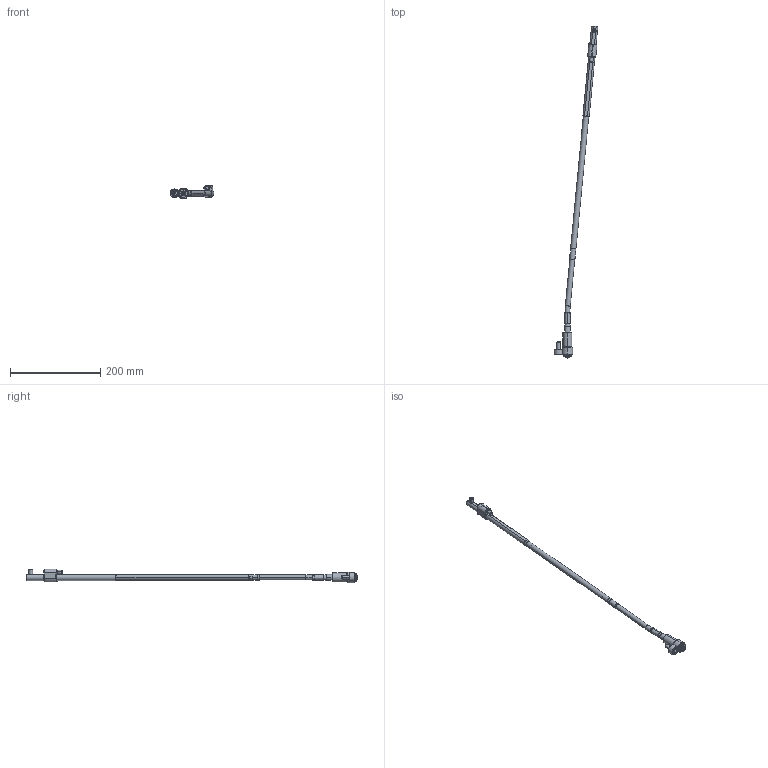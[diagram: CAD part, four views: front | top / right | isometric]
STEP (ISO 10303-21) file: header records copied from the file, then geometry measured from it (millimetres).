
FILE_DESCRIPTION (( 'STEP AP214' ), '1' );
FILE_NAME ('WL120100-EJE 5,5°.STEP', '2021-03-19T15:34:20', ( '' ), ( '' ), 'SwSTEP 2.0', 'SolidWorks 2019', '' );
FILE_SCHEMA (( 'AUTOMOTIVE_DESIGN' ));
Length unit declared in the file: millimetre
Products named in the file (17): Web-WL12-F01; Web-WL12-A2; 9DR2808-TOR; WL120100-B; 8WL12EJEP; 1DIN912820_DIN 912 M8 x 20 --- 20C; WL120100-EJE 5,5°; Web-WL12-A3; Web-WL12-F00.SLDPRT; Web-WL12-A8; WL120100-D; WL120100-E; 1DIN912645_DIN 912 M6 x 45 --- 45C; Web-WL12-A1; Web-WL12-XX_ON-WL120100-5,5; WL120100-B1; 3IMAN5X3-150_con sellador
Assembly tree (16 placements, depth 3):
  WL120100-EJE 5,5°
    Web-WL12-A8
    Web-WL12-XX_ON-WL120100-5,5
    Web-WL12-A3
    Web-WL12-A2
    Web-WL12-A1
    Web-WL12-F00.SLDPRT
      Web-WL12-F01
      1DIN912820_DIN 912 M8 x 20 --- 20C
      1DIN912645_DIN 912 M6 x 45 --- 45C
    WL120100-D
    8WL12EJEP
    WL120100-E
    9DR2808-TOR
    WL120100-B
      WL120100-B1
      3IMAN5X3-150_con sellador
Bounding box: 96.67 x 735.75 x 29.9 mm (x, y, z)
Volume: 113342 mm3; surface area: 49842.4 mm2
Topology: 15 solids, 15 shells, 432 faces, 906 edges, 525 vertices
Faces by surface type: plane 139, cylinder 123, cone 120, torus 50
Entity records: 13661 total; most frequent: DIRECTION 2240, CARTESIAN_POINT 2104, ORIENTED_EDGE 1788, AXIS2_PLACEMENT_3D 929, EDGE_CURVE 894, VERTEX_POINT 525, EDGE_LOOP 477, CIRCLE 476
